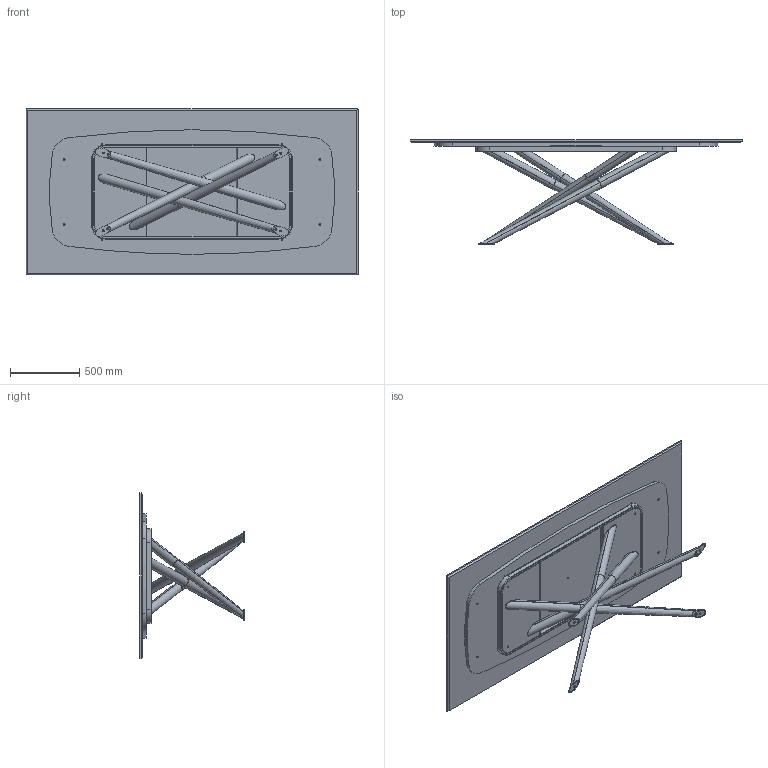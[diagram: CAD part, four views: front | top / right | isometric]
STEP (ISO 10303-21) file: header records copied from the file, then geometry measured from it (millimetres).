
FILE_DESCRIPTION (( 'STEP AP203' ), '1' );
FILE_NAME ('BA23M.STEP', '2024-08-08T06:18:35', ( '' ), ( '' ), 'SwSTEP 2.0', 'SolidWorks 2022', '' );
FILE_SCHEMA (( 'CONFIG_CONTROL_DESIGN' ));
Length unit declared in the file: millimetre
Products named in the file (10): BAB100000_01-00-Gambe saldate BALY 240_Default<A macchina>; BA23M; M2XMXX-00-Piani rettangolari in marmo_2400x1200; BAB100000_02-00-piede per baly 240; BAB100000_03-00-Telaio BALY L240_Default<A macchina>; M2X-00-Piani rettangolari marmo_2400*1200; TR Fastenings Ltd-M6_M6; BAB100000-00-BALY BASE GREZZA L240 rettangolare; M6xXXmm_HEX_M6x30mm HEX; TRUXXXXXX-00-NOBILITATO GR CON SUPP TRUCIOLARE SP. 25_TRU00007_2100x900
Assembly tree (20 placements, depth 3):
  BA23M
    M2XMXX-00-Piani rettangolari in marmo_2400x1200
      M2X-00-Piani rettangolari marmo_2400*1200
      TRUXXXXXX-00-NOBILITATO GR CON SUPP TRUCIOLARE SP. 25_TRU00007_2100x900
    BAB100000-00-BALY BASE GREZZA L240 rettangolare
      BAB100000_01-00-Gambe saldate BALY 240_Default<A macchina>
      BAB100000_03-00-Telaio BALY L240_Default<A macchina>
      BAB100000_02-00-piede per baly 240  x4
      TR Fastenings Ltd-M6_M6  x2
      M6xXXmm_HEX_M6x30mm HEX  x8
Bounding box: 2400 x 754 x 1200 mm (x, y, z)
Volume: 106077728.1 mm3; surface area: 13675987 mm2
Topology: 28 solids, 28 shells, 719 faces, 1529 edges, 841 vertices
Faces by surface type: plane 296, cylinder 223, cone 134, torus 48, bspline 18
Entity records: 12935 total; most frequent: CARTESIAN_POINT 2199, DIRECTION 2117, ORIENTED_EDGE 1818, EDGE_CURVE 909, AXIS2_PLACEMENT_3D 826, VERTEX_POINT 532, EDGE_LOOP 495, LINE 465
